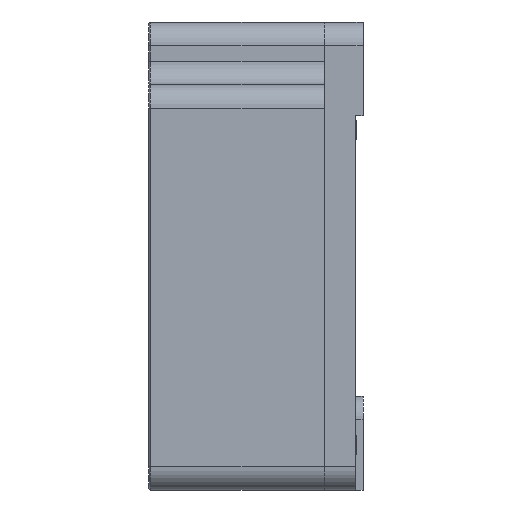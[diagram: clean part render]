
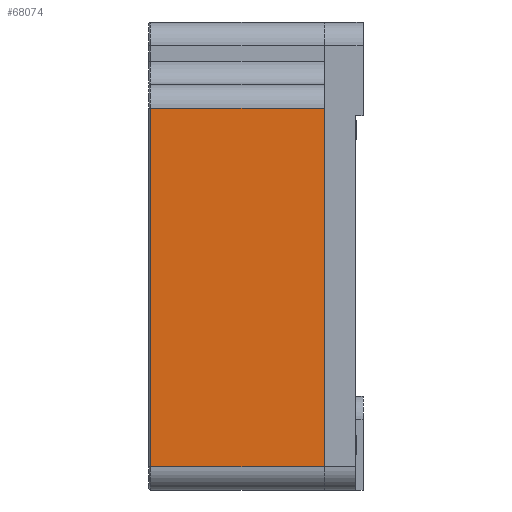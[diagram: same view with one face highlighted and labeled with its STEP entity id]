
A CAD part, left-side view. The second image highlights one B-rep face of the part: STEP entity #68074.
In plain terms, the highlighted planar face has unit normal (-1, 0, 0).
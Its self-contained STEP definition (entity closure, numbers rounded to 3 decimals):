
#4031 = DIRECTION ( 'NONE',  ( 0., 1., 0. ) ) ;
#6855 = CARTESIAN_POINT ( 'NONE',  ( -30., 27.25, -27. ) ) ;
#7084 = EDGE_CURVE ( 'NONE', #82479, #26923, #64792, .T. ) ;
#13854 = VECTOR ( 'NONE', #42477, 1000. ) ;
#14381 = EDGE_CURVE ( 'NONE', #83769, #82479, #19342, .T. ) ;
#16322 = VECTOR ( 'NONE', #4031, 1000. ) ;
#16348 = CARTESIAN_POINT ( 'NONE',  ( -30., 5., -30. ) ) ;
#18801 = ORIENTED_EDGE ( 'NONE', *, *, #7084, .T. ) ;
#19342 = LINE ( 'NONE', #31385, #16322 ) ;
#19901 = LINE ( 'NONE', #22344, #44212 ) ;
#20643 = EDGE_CURVE ( 'NONE', #26923, #39338, #19901, .T. ) ;
#22122 = LINE ( 'NONE', #80501, #13854 ) ;
#22344 = CARTESIAN_POINT ( 'NONE',  ( -30., 5., -27. ) ) ;
#22782 = PLANE ( 'NONE',  #69215 ) ;
#26923 = VERTEX_POINT ( 'NONE', #6855 ) ;
#30711 = DIRECTION ( 'NONE',  ( -1., 0., 0. ) ) ;
#31385 = CARTESIAN_POINT ( 'NONE',  ( -30., 27.5, 19. ) ) ;
#39111 = CARTESIAN_POINT ( 'NONE',  ( -30., 5., -27. ) ) ;
#39338 = VERTEX_POINT ( 'NONE', #39111 ) ;
#41556 = DIRECTION ( 'NONE',  ( 0., 0., -1. ) ) ;
#42477 = DIRECTION ( 'NONE',  ( 0., 0., 1. ) ) ;
#44212 = VECTOR ( 'NONE', #90057, 1000. ) ;
#45077 = DIRECTION ( 'NONE',  ( 0., 0., 1. ) ) ;
#51845 = VECTOR ( 'NONE', #41556, 1000. ) ;
#57749 = ORIENTED_EDGE ( 'NONE', *, *, #14381, .T. ) ;
#64226 = ORIENTED_EDGE ( 'NONE', *, *, #66353, .T. ) ;
#64792 = LINE ( 'NONE', #94948, #51845 ) ;
#65684 = EDGE_LOOP ( 'NONE', ( #57749, #18801, #80882, #64226 ) ) ;
#66353 = EDGE_CURVE ( 'NONE', #39338, #83769, #22122, .T. ) ;
#68074 = ADVANCED_FACE ( 'NONE', ( #84092 ), #22782, .T. ) ;
#69215 = AXIS2_PLACEMENT_3D ( 'NONE', #16348, #30711, #45077 ) ;
#74494 = CARTESIAN_POINT ( 'NONE',  ( -30., 5., 19. ) ) ;
#80501 = CARTESIAN_POINT ( 'NONE',  ( -30., 5., -30. ) ) ;
#80882 = ORIENTED_EDGE ( 'NONE', *, *, #20643, .T. ) ;
#82479 = VERTEX_POINT ( 'NONE', #89851 ) ;
#83769 = VERTEX_POINT ( 'NONE', #74494 ) ;
#84092 = FACE_OUTER_BOUND ( 'NONE', #65684, .T. ) ;
#89851 = CARTESIAN_POINT ( 'NONE',  ( -30., 27.25, 19. ) ) ;
#90057 = DIRECTION ( 'NONE',  ( 0., -1., 0. ) ) ;
#94948 = CARTESIAN_POINT ( 'NONE',  ( -30., 27.25, -30. ) ) ;
